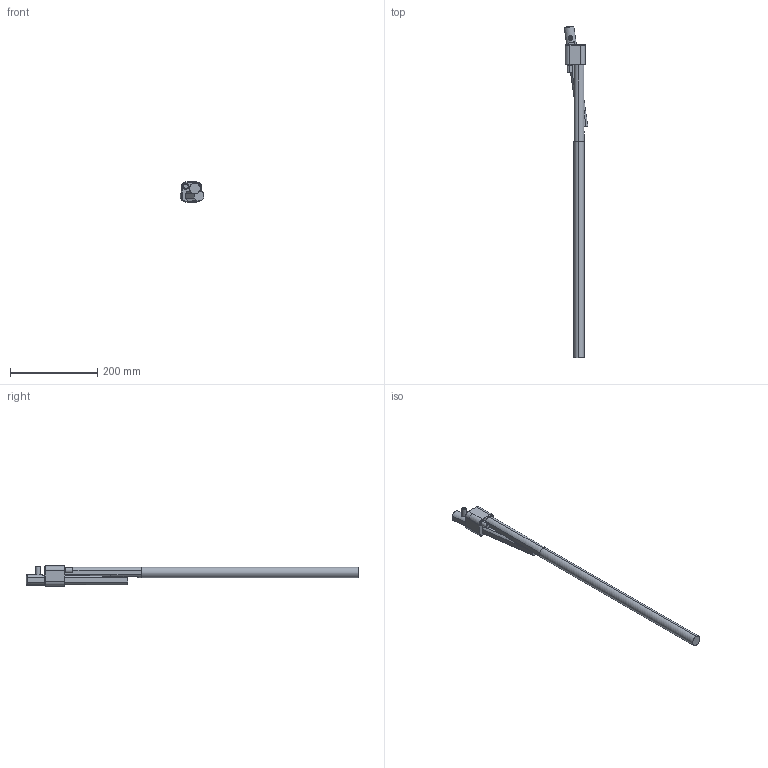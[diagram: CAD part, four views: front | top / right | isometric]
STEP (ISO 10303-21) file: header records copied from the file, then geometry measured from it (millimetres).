
FILE_DESCRIPTION (( 'STEP AP214' ), '1' );
FILE_NAME ('DR46100L-08-S-00.STEP', '2020-04-27T16:17:38', ( '' ), ( '' ), 'SwSTEP 2.0', 'SolidWorks 2019', '' );
FILE_SCHEMA (( 'AUTOMOTIVE_DESIGN' ));
Length unit declared in the file: millimetre
Products named in the file (9): 3IMAN6X3-150; 9DR4612-TOR; 9DR46100L-EI-S_B08-00; 9DR46XX24-BASE-S_BASE-08; DR46100L-08-S-00; 9DR46100L-EV-S_B08-00; 8DR4610FF; 9DR4610FF; 9DR46-AL
Assembly tree (8 placements, depth 3):
  DR46100L-08-S-00
    9DR46XX24-BASE-S_BASE-08
    9DR46100L-EI-S_B08-00
    9DR46100L-EV-S_B08-00
    9DR46-AL
    9DR4612-TOR
    9DR4610FF
      8DR4610FF
      3IMAN6X3-150
Bounding box: 54.01 x 759.12 x 46 mm (x, y, z)
Volume: 463092.6 mm3; surface area: 99879.6 mm2
Topology: 7 solids, 7 shells, 234 faces, 544 edges, 331 vertices
Faces by surface type: plane 90, cylinder 61, cone 52, torus 20, bspline 11
Entity records: 7889 total; most frequent: CARTESIAN_POINT 2224, DIRECTION 1100, ORIENTED_EDGE 1076, EDGE_CURVE 538, AXIS2_PLACEMENT_3D 422, VERTEX_POINT 331, VECTOR 256, LINE 256
